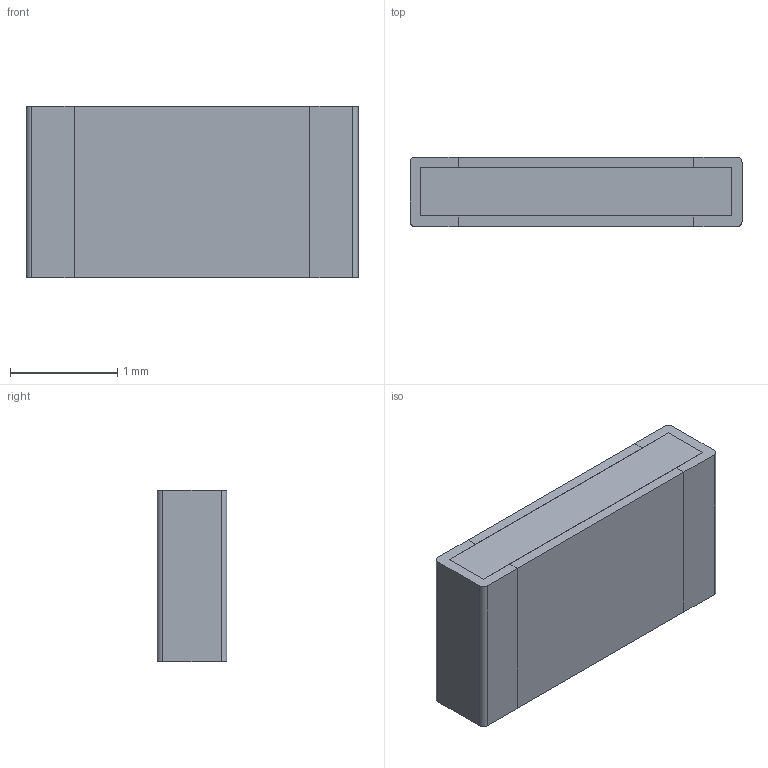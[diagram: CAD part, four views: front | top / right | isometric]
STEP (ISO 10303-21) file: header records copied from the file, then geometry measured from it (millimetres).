
FILE_DESCRIPTION (( 'STEP AP214' ), '1' );
FILE_NAME ( 'RESC3116X65.STEP', '2013-08-13T09:45:05', ( '' ), ( '' ), 'FPX Expert 2013', 'PCB Libraries', '' );
FILE_SCHEMA (( 'AUTOMOTIVE_DESIGN' ));
Length unit declared in the file: millimetre
Products named in the file (1): RESC3116X65
Bounding box: 3.1 x 0.65 x 1.6 mm (x, y, z)
Volume: 3.2 mm3; surface area: 38.6 mm2
Topology: 5 solids, 5 shells, 42 faces, 96 edges, 64 vertices
Faces by surface type: plane 38, cylinder 4
Entity records: 1351 total; most frequent: CARTESIAN_POINT 203, ORIENTED_EDGE 192, DIRECTION 190, EDGE_CURVE 96, VECTOR 88, LINE 88, VERTEX_POINT 64, AXIS2_PLACEMENT_3D 51
